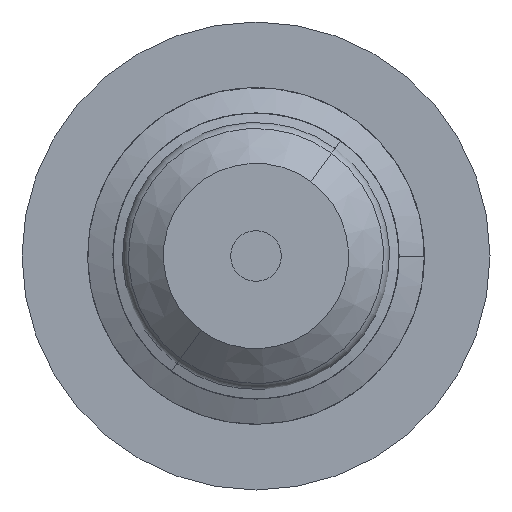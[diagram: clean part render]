
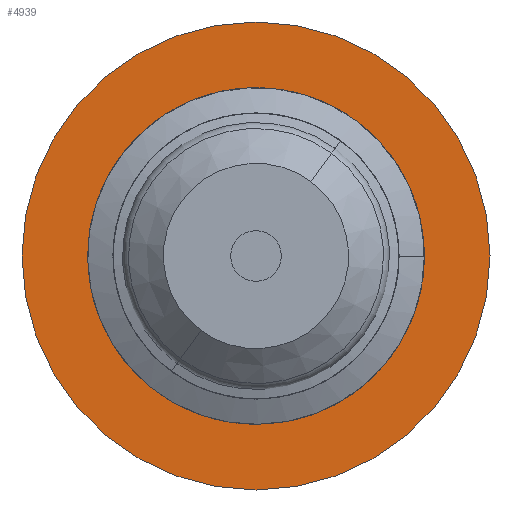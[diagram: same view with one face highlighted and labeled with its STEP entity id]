
A CAD part, front view. The second image highlights one B-rep face of the part: STEP entity #4939.
In plain terms, the highlighted planar face has unit normal (0, -1, 0).
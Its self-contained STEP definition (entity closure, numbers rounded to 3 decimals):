
#419 = CARTESIAN_POINT ( 'NONE',  ( 0., 0., 0. ) ) ;
#745 = ORIENTED_EDGE ( 'NONE', *, *, #4289, .F. ) ;
#886 = CARTESIAN_POINT ( 'NONE',  ( 0., 0., 8.5 ) ) ;
#958 = DIRECTION ( 'NONE',  ( 0., -1., 0. ) ) ;
#1167 = ORIENTED_EDGE ( 'NONE', *, *, #2565, .F. ) ;
#1399 = EDGE_CURVE ( 'NONE', #1772, #1617, #11443, .T. ) ;
#1487 = CARTESIAN_POINT ( 'NONE',  ( 0., 0., -8.5 ) ) ;
#1617 = VERTEX_POINT ( 'NONE', #1487 ) ;
#1772 = VERTEX_POINT ( 'NONE', #886 ) ;
#1956 = AXIS2_PLACEMENT_3D ( 'NONE', #419, #7338, #2452 ) ;
#2452 = DIRECTION ( 'NONE',  ( 0., 0., 1. ) ) ;
#2565 = EDGE_CURVE ( 'NONE', #10039, #7666, #6332, .T. ) ;
#2680 = FACE_OUTER_BOUND ( 'NONE', #5714, .T. ) ;
#3725 = DIRECTION ( 'NONE',  ( 0., 1., 0. ) ) ;
#3935 = DIRECTION ( 'NONE',  ( 0., -1., 0. ) ) ;
#3994 = CARTESIAN_POINT ( 'NONE',  ( 0., 0., 0. ) ) ;
#4289 = EDGE_CURVE ( 'NONE', #7666, #10039, #11889, .T. ) ;
#4579 = CARTESIAN_POINT ( 'NONE',  ( 0., 0., 13.9 ) ) ;
#4939 = ADVANCED_FACE ( 'NONE', ( #2680, #8077 ), #9849, .F. ) ;
#5424 = DIRECTION ( 'NONE',  ( 0., 1., 0. ) ) ;
#5714 = EDGE_LOOP ( 'NONE', ( #1167, #745 ) ) ;
#6332 = CIRCLE ( 'NONE', #1956, 13.9 ) ;
#6528 = DIRECTION ( 'NONE',  ( 0., 0., 1. ) ) ;
#6838 = CARTESIAN_POINT ( 'NONE',  ( 0., 0., 0. ) ) ;
#6865 = ORIENTED_EDGE ( 'NONE', *, *, #1399, .F. ) ;
#7057 = AXIS2_PLACEMENT_3D ( 'NONE', #6838, #958, #11645 ) ;
#7338 = DIRECTION ( 'NONE',  ( 0., 1., 0. ) ) ;
#7666 = VERTEX_POINT ( 'NONE', #4579 ) ;
#7890 = ORIENTED_EDGE ( 'NONE', *, *, #8848, .F. ) ;
#7959 = EDGE_LOOP ( 'NONE', ( #6865, #7890 ) ) ;
#8077 = FACE_BOUND ( 'NONE', #7959, .T. ) ;
#8307 = DIRECTION ( 'NONE',  ( 0., 0., 1. ) ) ;
#8742 = CIRCLE ( 'NONE', #7057, 8.5 ) ;
#8787 = AXIS2_PLACEMENT_3D ( 'NONE', #9796, #3935, #8990 ) ;
#8848 = EDGE_CURVE ( 'NONE', #1617, #1772, #8742, .T. ) ;
#8990 = DIRECTION ( 'NONE',  ( 0., 0., 1. ) ) ;
#9310 = AXIS2_PLACEMENT_3D ( 'NONE', #9603, #3725, #6528 ) ;
#9603 = CARTESIAN_POINT ( 'NONE',  ( 0., 0., 0. ) ) ;
#9796 = CARTESIAN_POINT ( 'NONE',  ( 0., 0., 0. ) ) ;
#9849 = PLANE ( 'NONE',  #10927 ) ;
#10039 = VERTEX_POINT ( 'NONE', #12072 ) ;
#10927 = AXIS2_PLACEMENT_3D ( 'NONE', #3994, #5424, #8307 ) ;
#11443 = CIRCLE ( 'NONE', #8787, 8.5 ) ;
#11645 = DIRECTION ( 'NONE',  ( 0., 0., 1. ) ) ;
#11889 = CIRCLE ( 'NONE', #9310, 13.9 ) ;
#12072 = CARTESIAN_POINT ( 'NONE',  ( 0., 0., -13.9 ) ) ;
